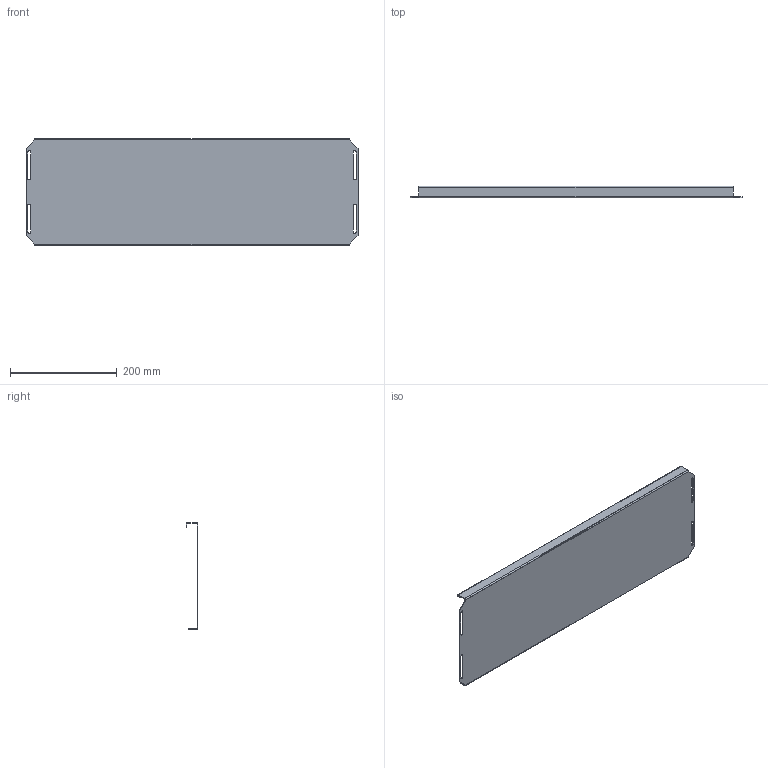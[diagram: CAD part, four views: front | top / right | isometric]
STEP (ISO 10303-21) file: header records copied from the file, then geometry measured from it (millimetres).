
FILE_DESCRIPTION (( 'STEP AP203' ), '1' );
FILE_NAME ('FC 230 PD Ïàíåëü êîíöåâàÿ.STEP', '2019-07-08T14:07:12', ( 'user' ), ( '' ), 'SwSTEP 2.0', 'SolidWorks 2012', '' );
FILE_SCHEMA (( 'CONFIG_CONTROL_DESIGN' ));
Length unit declared in the file: millimetre
Products named in the file (1): FC 230 PD  Ïàíåëü êîíöåâàÿ
Bounding box: 622 x 21.4 x 200 mm (x, y, z)
Volume: 177912.5 mm3; surface area: 299094.3 mm2
Topology: 1 solids, 1 shells, 58 faces, 144 edges, 88 vertices
Faces by surface type: plane 40, cylinder 18
Entity records: 1785 total; most frequent: DIRECTION 298, CARTESIAN_POINT 291, ORIENTED_EDGE 288, EDGE_CURVE 144, VECTOR 108, LINE 108, AXIS2_PLACEMENT_3D 95, VERTEX_POINT 88
